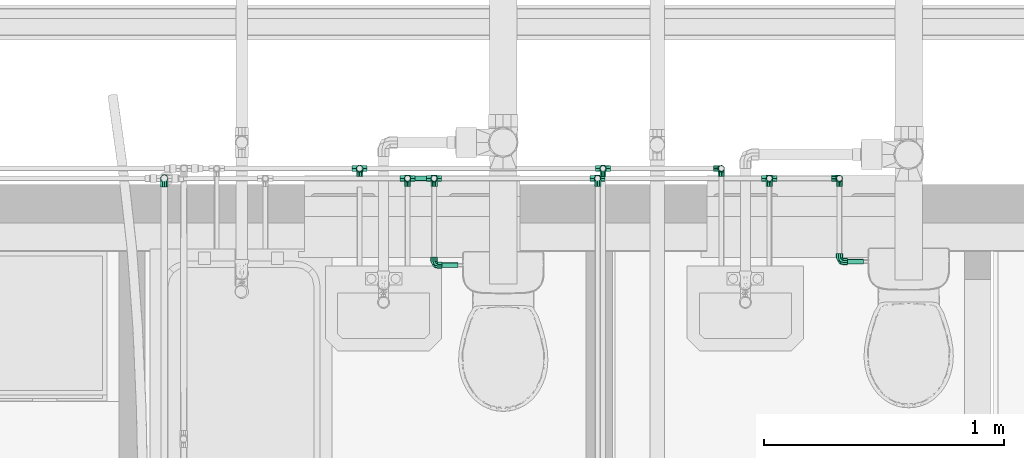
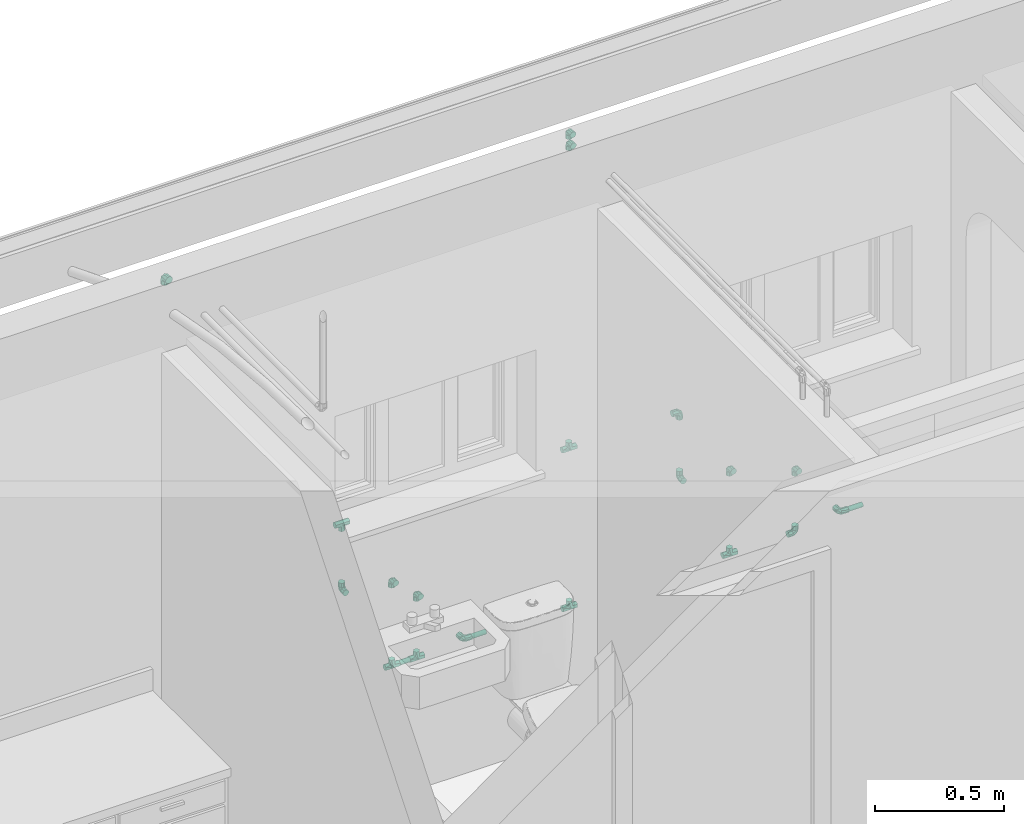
# One storey, part 30 of 41: 19 flow fittings, 3 flow segments.
"""IFC2X3 building model written with IfcOpenShell, lengths in millimetres."""

from ifc_helpers import new_model, entity, si_unit, converted_unit, derived_unit, direction, frame, origin, origin_2d_with_axis, place, context, subcontext, project, spatial, circle, extrude, faceted_brep, source, transform, mapped, type_object, type_shapes, element, save


model = new_model("IFC2X3")

# Units and contexts
model_context = context("Model", 3, precision=0.01, world=origin(), true_north=direction((6.12303176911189e-17, 1.0)))
body_context = subcontext(model_context, "Body", "Model", "MODEL_VIEW")
ifc_project = project(units=[si_unit("LENGTHUNIT", "METRE", prefix="MILLI"), si_unit("AREAUNIT", "SQUARE_METRE"), si_unit("VOLUMEUNIT", "CUBIC_METRE"), converted_unit("PLANEANGLEUNIT", "DEGREE", entity("IfcRatioMeasure", 0.0174532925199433), si_unit("PLANEANGLEUNIT", "RADIAN"), dimensions=[0, 0, 0, 0, 0, 0, 0]), si_unit("MASSUNIT", "GRAM", prefix="KILO"), derived_unit("MASSDENSITYUNIT", [(si_unit("MASSUNIT", "GRAM", prefix="KILO"), 1), (si_unit("LENGTHUNIT", "METRE"), -3)]), si_unit("TIMEUNIT", "SECOND"), si_unit("FREQUENCYUNIT", "HERTZ"), si_unit("THERMODYNAMICTEMPERATUREUNIT", "DEGREE_CELSIUS"), derived_unit("THERMALTRANSMITTANCEUNIT", [(si_unit("MASSUNIT", "GRAM", prefix="KILO"), 1), (si_unit("THERMODYNAMICTEMPERATUREUNIT", "KELVIN"), -1), (si_unit("TIMEUNIT", "SECOND"), -3)]), derived_unit("VOLUMETRICFLOWRATEUNIT", [(si_unit("LENGTHUNIT", "METRE"), 3), (si_unit("TIMEUNIT", "SECOND"), -1)]), si_unit("ELECTRICCURRENTUNIT", "AMPERE"), si_unit("ELECTRICVOLTAGEUNIT", "VOLT"), si_unit("POWERUNIT", "WATT"), si_unit("FORCEUNIT", "NEWTON", prefix="KILO"), si_unit("ILLUMINANCEUNIT", "LUX"), si_unit("LUMINOUSFLUXUNIT", "LUMEN"), si_unit("LUMINOUSINTENSITYUNIT", "CANDELA"), derived_unit("USERDEFINED", [(si_unit("MASSUNIT", "GRAM", prefix="KILO"), -1), (si_unit("LENGTHUNIT", "METRE"), -2), (si_unit("TIMEUNIT", "SECOND"), 3), (si_unit("LUMINOUSFLUXUNIT", "LUMEN"), 1)]), derived_unit("LINEARVELOCITYUNIT", [(si_unit("LENGTHUNIT", "METRE"), 1), (si_unit("TIMEUNIT", "SECOND"), -1)]), si_unit("PRESSUREUNIT", "PASCAL"), derived_unit("USERDEFINED", [(si_unit("LENGTHUNIT", "METRE"), -2), (si_unit("MASSUNIT", "GRAM", prefix="KILO"), 1), (si_unit("TIMEUNIT", "SECOND"), -2)])], contexts=[model_context])

# Site, building, storey
site_placement = place(None, origin())
site = spatial("IfcSite", under=ifc_project, at=site_placement, Name="Surface", CompositionType="ELEMENT")
building_placement = place(site_placement, origin())
building = spatial("IfcBuilding", under=site, at=building_placement, CompositionType="ELEMENT")
storey_placement = place(building_placement, frame((0.0, 0.0, 300.0)))
storey = spatial("IfcBuildingStorey", under=building, at=storey_placement, Name="F.F.L", CompositionType="ELEMENT", Elevation=300.0)

# Flow segments
pipe_segment_type = type_object("IfcPipeSegmentType", Name="Pipe Types:PVC80", PredefinedType="NOTDEFINED")
flow_segment_1_placement = place(storey_placement, origin())
element("IfcFlowSegment", 1, at=flow_segment_1_placement, inside=storey, type_object=pipe_segment_type, Name="Pipe Types:PVC80", ObjectType="Pipe Types:PVC80", context=body_context, shape_type="SweptSolid", body=[
    extrude(circle(Radius=10.668, at=origin_2d_with_axis()), frame((-1545.29684711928, 10503.8400891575, 688.0), z_axis=(1.0, 0.0, 0.0), x_axis=(0.0, -1.0, 0.0)), (0.0, 0.0, 1.0), 66.2624500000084),
])
flow_segment_2_placement = place(storey_placement, origin())
element("IfcFlowSegment", 2, at=flow_segment_2_placement, inside=storey, type_object=pipe_segment_type, Name="Pipe Types:PVC80", ObjectType="Pipe Types:PVC80", context=body_context, shape_type="SweptSolid", body=[
    extrude(circle(Radius=10.668, at=origin_2d_with_axis()), frame((-3350.1251700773, 10850.8400891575, 383.200000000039), z_axis=(1.0, 0.0, 0.0), x_axis=(0.0, 1.0, 0.0)), (0.0, 0.0, 1.0), 47.1591162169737),
])
flow_segment_3_placement = place(storey_placement, origin())
element("IfcFlowSegment", 3, at=flow_segment_3_placement, inside=storey, type_object=pipe_segment_type, Name="Pipe Types:PVC80", ObjectType="Pipe Types:PVC80", context=body_context, shape_type="SweptSolid", body=[
    extrude(circle(Radius=10.668, at=origin_2d_with_axis()), frame((-3237.47850386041, 10488.8400891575, 688.0), z_axis=(1.0, 0.0, 0.0), x_axis=(0.0, -1.0, 0.0)), (0.0, 0.0, 1.0), 65.7918893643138),
])

# Space
space_1_placement = place(storey_placement, origin())
space_1 = spatial("IfcSpace", under=storey, at=space_1_placement, Name="4", CompositionType="ELEMENT", InteriorOrExteriorSpace="INTERNAL")

# Flow fittings
pipe_fitting_type_1 = type_object("IfcPipeFittingType", Name="Standard", PredefinedType="NOTDEFINED")
shared_shape_1 = source(origin(), body_context, "Body", "Brep", [
    faceted_brep([(-33.7375499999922, 3.59598004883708, -13.4203802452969), (-33.7375499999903, -3.59598004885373, -13.420380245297), (-33.7375499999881, -12.0323837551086, -6.94690000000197), (-33.7375499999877, -13.8938000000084, 0.0), (-33.7375499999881, -12.0323837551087, 6.94689999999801), (-33.7375499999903, -3.59598004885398, 13.4203802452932), (-33.7375499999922, 3.59598004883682, 13.4203802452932), (-33.7375499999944, 12.0323837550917, 6.94689999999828), (-33.7375499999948, 13.8937999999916, 0.0), (-33.7375499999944, 12.0323837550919, -6.94690000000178), (-14.6875499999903, -13.8938000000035, 0.0), (-14.6875499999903, -12.0323837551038, 6.94689999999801), (-14.6875499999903, -3.59598004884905, 13.4203802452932), (-14.6875499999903, 3.59598004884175, 13.4203802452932), (3.59598004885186, 33.7375499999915, 13.4203802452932), (-3.59598004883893, 33.7375499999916, 13.4203802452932), (-3.59598004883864, 14.6875499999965, 13.4203802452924), (3.59598004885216, 14.6875499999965, 13.420380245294), (-14.6875499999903, 12.0323837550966, 6.94689999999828), (-14.6875499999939, 13.8937999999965, 0.0), (-14.6875499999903, 12.0323837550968, -6.94690000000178), (-14.6875499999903, 3.595980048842, -13.4203802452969), (-14.6875499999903, -3.59598004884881, -13.420380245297), (-3.59598004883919, 33.7375499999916, -13.4203802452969), (3.59598004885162, 33.7375499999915, -13.420380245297), (3.59598004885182, 14.6875499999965, -13.4203802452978), (-3.59598004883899, 14.6875499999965, -13.420380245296), (-14.6875499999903, -12.0323837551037, -6.94690000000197), (-0.73570850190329, 0.735706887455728, 12.9461366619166), (-5.12124733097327, -8.86554492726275, 8.82133054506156), (-3.19746952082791, -7.25999894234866, 0.0), (8.85075041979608, 5.0327975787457, 8.79727043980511), (12.0323837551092, 14.6875499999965, 6.94689999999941), (10.0646251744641, 0.396874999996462, 0.0), (-14.1262839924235, 14.1262839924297, 0.0), (-12.0323837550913, 14.6875499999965, 6.94689999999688), (-8.39237862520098, 8.39237845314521, 12.6322359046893), (13.8938000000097, 14.6875499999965, 0.0), (-13.8937999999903, 14.6875499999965, 0.0), (12.032383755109, 14.6875499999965, -6.94690000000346), (8.85074986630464, 5.03279761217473, -8.79727108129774), (-5.12124714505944, -8.86554487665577, -8.82133051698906), (-0.735707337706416, 0.735706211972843, -12.9461361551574), (-12.0323837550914, 14.6875499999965, -6.9469000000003), (-8.39237835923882, 8.3923781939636, -12.6322360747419), (-12.032383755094, 33.7375499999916, -6.94690000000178), (-13.8937999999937, 33.7375499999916, 0.0), (-12.0323837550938, 33.7375499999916, 6.94689999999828), (12.0323837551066, 33.7375499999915, 6.94689999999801), (13.8938000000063, 33.7375499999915, 0.0), (12.0323837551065, 33.7375499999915, -6.94690000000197)], [[[0, 1, 2, 3, 4, 5, 6, 7, 8, 9]], [[3, 10, 11, 4]], [[4, 11, 12, 5]], [[12, 13, 6, 5]], [[14, 15, 16, 17]], [[6, 13, 18, 7]], [[7, 18, 19, 8]], [[8, 19, 20, 9]], [[9, 20, 21, 0]], [[21, 22, 1, 0]], [[23, 24, 25, 26]], [[1, 22, 27, 2]], [[2, 27, 10, 3]], [[12, 28, 13]], [[29, 11, 30]], [[31, 28, 29]], [[28, 12, 29]], [[32, 31, 33]], [[34, 18, 35]], [[18, 36, 35]], [[34, 19, 18]], [[18, 13, 36]], [[11, 10, 30]], [[29, 33, 31]], [[33, 37, 32]], [[29, 30, 33]], [[32, 17, 31]], [[28, 36, 13]], [[34, 35, 38]], [[29, 12, 11]], [[35, 36, 16]], [[28, 16, 36]], [[17, 28, 31]], [[16, 28, 17]], [[20, 19, 34]], [[39, 40, 25]], [[40, 41, 42]], [[20, 43, 44]], [[41, 30, 27]], [[42, 21, 44]], [[41, 33, 30]], [[42, 44, 26]], [[27, 30, 10]], [[20, 34, 43]], [[43, 26, 44]], [[42, 25, 40]], [[41, 27, 22]], [[25, 42, 26]], [[40, 39, 33]], [[22, 21, 42]], [[39, 37, 33]], [[22, 42, 41]], [[33, 41, 40]], [[20, 44, 21]], [[43, 34, 38]], [[23, 45, 46, 47, 15, 14, 48, 49, 50, 24]], [[37, 49, 48, 32]], [[32, 48, 14, 17]], [[16, 15, 47, 35]], [[35, 47, 46, 38]], [[38, 46, 45, 43]], [[43, 45, 23, 26]], [[25, 24, 50, 39]], [[39, 50, 49, 37]]]),
])
type_shapes(pipe_fitting_type_1, [shared_shape_1])
flow_fitting_1_placement = place(space_1_placement, frame((-1579.03439711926, 10503.8400891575, 688.0), z_axis=(0.0, 0.0, 1.0), x_axis=(0.0, -1.0, 0.0)))
element("IfcFlowFitting", 4, at=flow_fitting_1_placement, inside=space_1, type_object=pipe_fitting_type_1, Name="M_Elbow - PVC - Sch 40:Standard", ObjectType="Standard", context=body_context, shape_type="MappedRepresentation", body=[
    mapped(shared_shape_1, transform((0.0, 0.0, 0.0), scale=1.0)),
])
for number, where, z_axis, x_axis, name in (
    (5, (-1579.03439711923, 10850.8400891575, 688.0), (-1.0, 0.0, 0.0), (0.0, 1.0, 0.0), "M_Elbow - PVC - Sch 40:Standard"),
    (6, (-1579.03439711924, 10850.8400891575, 383.200000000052), (0.0, 1.0, 0.0), (0.0, 0.0, -1.0), "M_Elbow - PVC - Sch 40:Standard"),
    (7, (-3271.21605386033, 10850.8400891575, 688.0), (-1.0, 0.0, 0.0), (0.0, 1.0, 0.0), "M_Elbow - PVC - Sch 40:Standard"),
    (8, (-1871.87517007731, 10850.8400891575, 790.399999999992), (-1.0, 0.0, 0.0), (0.0, 1.0, 0.0), "M_Elbow - PVC - Sch 40:Standard"),
    (9, (-3381.87517007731, 10850.8400891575, 790.399999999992), (-1.0, 0.0, 0.0), (0.0, 1.0, 0.0), "M_Elbow - PVC - Sch 40:Standard"),
    (10, (-2588.5127099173, 10850.8400891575, 2580.0), (1.0, 0.0, 0.0), (0.0, 0.0, 1.0), "M_Elbow - PVC - Sch 40:Standard"),
    (11, (-2566.0127099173, 10892.2567375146, 2600.0), (1.0, 0.0, 0.0), (0.0, 0.0, 1.0), "M_Elbow - PVC - Sch 40:Standard"),
    (12, (-2071.87517007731, 10892.2567375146, 1100.0), (0.0, 1.0, 0.0), (1.0, 0.0, 0.0), "M_Elbow - PVC - Sch 40:Standard"),
    (13, (-2071.8751700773, 10892.2567375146, 790.399999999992), (-1.0, 0.0, 0.0), (0.0, 0.0, -1.0), "M_Elbow - PVC - Sch 40:Standard"),
    (14, (-3581.87517007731, 10892.2567375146, 790.399999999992), (-1.0, 0.0, 0.0), (0.0, 0.0, -1.0), "M_Elbow - PVC - Sch 40:Standard"),
):
    element("IfcFlowFitting", number, at=place(storey_placement, frame(where, z_axis=z_axis, x_axis=x_axis)), inside=storey, type_object=pipe_fitting_type_1, Name=name, ObjectType="Standard", context=body_context, shape_type="MappedRepresentation", body=[
        mapped(shared_shape_1, transform((0.0, 0.0, 0.0), scale=1.0)),
    ])

# Space
space_2_placement = place(storey_placement, origin())
space_2 = spatial("IfcSpace", under=storey, at=space_2_placement, Name="3", CompositionType="ELEMENT", InteriorOrExteriorSpace="INTERNAL")

# Flow fittings
flow_fitting_2_placement = place(space_2_placement, frame((-3271.21605386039, 10488.8400891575, 688.0), z_axis=(0.0, 0.0, 1.0), x_axis=(0.0, -1.0, 0.0)))
element("IfcFlowFitting", 15, at=flow_fitting_2_placement, inside=space_2, type_object=pipe_fitting_type_1, Name="M_Elbow - PVC - Sch 40:Standard", ObjectType="Standard", context=body_context, shape_type="MappedRepresentation", body=[
    mapped(shared_shape_1, transform((0.0, 0.0, 0.0), scale=1.0)),
])
pipe_fitting_type_2 = type_object("IfcPipeFittingType", Name="Standard", PredefinedType="NOTDEFINED")
shared_shape_2 = source(origin(), body_context, "Body", "Brep", [
    faceted_brep([(-31.7499999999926, -6.94690000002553, 12.0323837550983), (-31.7499999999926, 0.0, 12.0323837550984), (-31.7499999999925, 6.94689999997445, 12.0323837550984), (-31.7499999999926, 10.4203499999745, 6.01619187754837), (-31.7499999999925, 13.8937999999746, 0.0), (-31.7499999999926, 10.4203499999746, -6.01619187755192), (-31.7499999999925, 6.94689999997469, -12.0323837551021), (-31.7499999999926, 0.0, -12.0323837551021), (-31.7499999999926, -6.94690000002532, -12.0323837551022), (-31.7499999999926, -10.4203500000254, -6.01619187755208), (-31.7499999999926, -13.8938000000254, 0.0), (-31.7499999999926, -12.1942000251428, 2.94379350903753), (-31.7499999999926, -10.4203500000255, 6.0161918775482), (31.7500000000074, -6.94690000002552, -12.0323837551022), (31.7500000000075, 0.0, -12.0323837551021), (31.7500000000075, 6.94689999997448, -12.0323837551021), (31.7500000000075, 10.4945999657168, -5.88758716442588), (31.7500000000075, 13.8937999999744, 0.0), (31.7500000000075, 10.4203499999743, 6.01619187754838), (31.7500000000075, 6.94689999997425, 12.0323837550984), (31.7500000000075, 0.0, 12.0323837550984), (31.7500000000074, -6.94690000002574, 12.0323837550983), (31.7500000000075, -10.4203500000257, 6.01619187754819), (31.7500000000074, -13.8938000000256, 0.0), (31.7500000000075, -12.1941999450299, -2.94379364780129), (31.7500000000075, -10.4203500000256, -6.01619187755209), (11.9878956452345, -11.9878956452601, 4.77993540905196), (10.081991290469, -10.0819912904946, 9.55987081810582), (0.0, 0.0, 13.8937999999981), (-13.8938, -13.8938000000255, 0.0), (-10.8405074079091, -10.8405074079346, 5.75319397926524), (-10.7027027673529, -10.7027027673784, 6.01285361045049), (-7.78721481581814, -7.78721481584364, 11.5063879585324), (13.8938, -13.8938000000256, 0.0), (-11.9878956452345, -11.98789564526, -4.77993540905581), (0.0, 0.0, -13.8938000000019), (-10.0819912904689, -10.0819912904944, -9.55987081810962), (10.840507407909, -10.8405074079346, -5.75319397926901), (10.7027027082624, -10.7027027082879, -6.01285372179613), (7.78721481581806, -7.78721481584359, -11.5063879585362), (6.94690000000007, -31.7500000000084, -12.0323837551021), (10.4946000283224, -31.7500000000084, -5.88758705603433), (13.8938000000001, -31.7500000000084, 0.0), (10.42035, -31.7500000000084, 6.01619187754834), (6.94689999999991, -31.7500000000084, 12.0323837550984), (0.0, -31.7500000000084, 12.0323837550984), (-6.94690000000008, -31.7500000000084, 12.0323837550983), (-10.4946000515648, -31.7500000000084, 5.88758701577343), (-13.8938, -31.7500000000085, 0.0), (-10.4203499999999, -31.7500000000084, -6.01619187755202), (-6.94689999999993, -31.7500000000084, -12.0323837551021), (0.0, -31.7500000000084, -12.0323837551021)], [[[0, 1, 2, 3, 4, 5, 6, 7, 8, 9, 10, 11, 12]], [[13, 14, 15, 16, 17, 18, 19, 20, 21, 22, 23, 24, 25]], [[26, 23, 22]], [[27, 22, 21]], [[28, 21, 20, 19]], [[11, 29, 30, 31]], [[12, 32, 0]], [[23, 26, 33]], [[10, 29, 11]], [[22, 27, 26]], [[21, 28, 27]], [[32, 12, 31]], [[4, 3, 2, 19, 18, 17]], [[32, 1, 0]], [[32, 28, 1]], [[31, 12, 11]], [[2, 28, 19]], [[28, 2, 1]], [[6, 5, 4, 17, 16, 15]], [[10, 34, 29]], [[6, 15, 35]], [[6, 35, 8, 7]], [[9, 36, 34]], [[24, 33, 37, 38]], [[14, 13, 39]], [[33, 24, 23]], [[39, 25, 38]], [[39, 13, 25]], [[36, 8, 35]], [[38, 25, 24]], [[9, 34, 10]], [[35, 15, 14]], [[36, 9, 8]], [[39, 35, 14]], [[40, 41, 42, 43, 44, 45, 46, 47, 48, 49, 50, 51]], [[46, 32, 31, 30]], [[29, 48, 47]], [[47, 30, 29]], [[32, 46, 45]], [[27, 44, 43]], [[33, 43, 42]], [[46, 30, 47]], [[32, 45, 28]], [[43, 33, 26, 27]], [[28, 45, 44]], [[28, 44, 27]], [[40, 39, 38, 37]], [[33, 42, 41]], [[41, 37, 33]], [[39, 40, 51]], [[36, 50, 49]], [[29, 49, 48]], [[40, 37, 41]], [[39, 51, 35]], [[49, 29, 34, 36]], [[35, 51, 50]], [[35, 50, 36]]]),
])
type_shapes(pipe_fitting_type_2, [shared_shape_2])
for number, where, z_axis, x_axis, name in (
    (16, (-3271.21605386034, 10850.8400891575, 383.200000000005), (0.0, 1.0, 0.0), (1.0, 0.0, 0.0), "M_Tee - PVC - Sch 40:Standard"),
    (17, (-1871.87517007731, 10850.8400891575, 383.200000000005), (0.0, 1.0, 0.0), (1.0, 0.0, 0.0), "M_Tee - PVC - Sch 40:Standard"),
    (18, (-3381.87517007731, 10850.8400891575, 383.200000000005), (0.0, 1.0, 0.0), (1.0, 0.0, 0.0), "M_Tee - PVC - Sch 40:Standard"),
    (19, (-2588.51270991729, 10850.8400891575, 383.200000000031), (0.0, -1.0, 0.0), (-1.0, 0.0, 0.0), "M_Tee - PVC - Sch 40:Standard"),
    (20, (-2566.01270991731, 10892.2567375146, 1100.0), (0.0, 1.0, 0.0), (1.0, 0.0, 0.0), "M_Tee - PVC - Sch 40:Standard"),
    (21, (-3581.8751700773, 10892.2567375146, 1100.0), (0.0, 1.0, 0.0), (-1.0, 0.0, 0.0), "M_Tee - PVC - Sch 40:Standard"),
):
    element("IfcFlowFitting", number, at=place(storey_placement, frame(where, z_axis=z_axis, x_axis=x_axis)), inside=storey, type_object=pipe_fitting_type_2, Name=name, ObjectType="Standard", context=body_context, shape_type="MappedRepresentation", body=[
        mapped(shared_shape_2, transform((0.0, 0.0, 0.0), scale=1.0)),
    ])
pipe_fitting_type_3 = type_object("IfcPipeFittingType", Name="Standard", PredefinedType="NOTDEFINED")
shared_shape_3 = source(origin(), body_context, "Body", "Brep", [
    faceted_brep([(-35.3250499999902, -4.2106493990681, -15.7143574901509), (-35.3250499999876, -14.0891074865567, -8.13435000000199), (-35.325049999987, -16.2687000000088, 0.0), (-35.3250499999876, -14.0891074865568, 8.13434999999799), (-35.3250499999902, -4.21064939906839, 15.7143574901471), (-35.3250499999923, 4.21064939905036, 15.7143574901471), (-35.3250499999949, 14.089107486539, 8.1343499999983), (-35.3250499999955, 16.2686999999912, 0.0), (-35.3250499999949, 14.0891074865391, -8.13435000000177), (-35.3250499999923, 4.21064939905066, -15.7143574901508), (-17.0624499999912, -16.2687000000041, 0.0), (-17.0624499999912, -14.0891074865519, 8.13434999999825), (-17.0624499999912, -4.21064939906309, 15.7143574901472), (-17.0624499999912, 4.21064939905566, 15.714357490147), (4.21064939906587, 35.3250499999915, 15.7143574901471), (-4.21064939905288, 35.3250499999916, 15.7143574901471), (-4.21064939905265, 17.0624499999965, 15.7143574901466), (4.2106493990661, 17.0624499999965, 15.7143574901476), (-17.0624499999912, 14.0891074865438, 8.13434999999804), (-17.0624499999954, 16.2686999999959, 0.0), (-17.0624499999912, 14.089107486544, -8.13435000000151), (-17.0624499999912, 4.21064939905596, -15.7143574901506), (-17.0624499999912, -4.21064939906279, -15.714357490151), (-4.21064939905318, 35.3250499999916, -15.7143574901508), (4.21064939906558, 35.3250499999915, -15.7143574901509), (4.21064939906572, 17.0624499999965, -15.7143574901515), (-4.21064939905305, 17.0624499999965, -15.7143574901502), (-17.0624499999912, -14.0891074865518, -8.13435000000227), (-0.790080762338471, 0.790078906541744, 15.1415400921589), (-5.95227596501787, -10.4173898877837, 10.3177265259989), (-3.60834296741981, -8.50096768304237, 0.0), (10.4004616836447, 5.84839122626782, 10.2891059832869), (14.0891074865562, 17.0624499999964, 8.13434999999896), (11.8031726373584, 0.396874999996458, 0.0), (-16.5011839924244, 16.5011839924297, 0.0), (-14.0891074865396, 17.0624499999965, 8.13434999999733), (-9.78072392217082, 9.78072371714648, 14.7956641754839), (16.2687000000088, 17.0624499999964, 0.0), (-16.2686999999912, 17.0624499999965, 0.0), (14.089107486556, 17.0624499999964, -8.13435000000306), (10.4004611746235, 5.84839127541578, -10.2891065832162), (-0.79007954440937, 0.790078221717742, -15.1415395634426), (-14.0891074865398, 17.0624499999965, -8.1343500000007), (-9.78072363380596, 9.78072344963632, -14.7956643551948), (-5.95227577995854, -10.4173898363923, -10.317726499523), (-14.0891074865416, 35.3250499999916, -8.13435000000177), (-16.2686999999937, 35.3250499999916, 0.0), (-14.0891074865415, 35.3250499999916, 8.1343499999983), (14.0891074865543, 35.3250499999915, 8.13434999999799), (16.2687000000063, 35.3250499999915, 0.0), (14.0891074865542, 35.3250499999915, -8.13435000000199)], [[[0, 1, 2, 3, 4, 5, 6, 7, 8, 9]], [[2, 10, 11, 3]], [[3, 11, 12, 4]], [[12, 13, 5, 4]], [[14, 15, 16, 17]], [[5, 13, 18, 6]], [[6, 18, 19, 7]], [[7, 19, 20, 8]], [[8, 20, 21, 9]], [[21, 22, 0, 9]], [[23, 24, 25, 26]], [[0, 22, 27, 1]], [[1, 27, 10, 2]], [[12, 28, 13]], [[29, 11, 30]], [[28, 12, 29]], [[29, 31, 28]], [[32, 31, 33]], [[34, 18, 35]], [[18, 36, 35]], [[34, 19, 18]], [[18, 13, 36]], [[11, 10, 30]], [[29, 33, 31]], [[33, 37, 32]], [[17, 28, 31]], [[32, 17, 31]], [[28, 36, 13]], [[34, 35, 38]], [[29, 12, 11]], [[35, 36, 16]], [[28, 16, 36]], [[33, 29, 30]], [[16, 28, 17]], [[20, 19, 34]], [[39, 40, 25]], [[41, 25, 40]], [[20, 42, 43]], [[44, 30, 27]], [[41, 21, 43]], [[41, 43, 26]], [[22, 41, 44]], [[27, 30, 10]], [[20, 34, 42]], [[42, 26, 43]], [[20, 43, 21]], [[44, 27, 22]], [[25, 41, 26]], [[40, 39, 33]], [[22, 21, 41]], [[39, 37, 33]], [[44, 40, 33]], [[44, 33, 30]], [[44, 41, 40]], [[42, 34, 38]], [[23, 45, 46, 47, 15, 14, 48, 49, 50, 24]], [[37, 49, 48, 32]], [[32, 48, 14, 17]], [[16, 15, 47, 35]], [[35, 47, 46, 38]], [[38, 46, 45, 42]], [[42, 45, 23, 26]], [[25, 24, 50, 39]], [[39, 50, 49, 37]]]),
])
type_shapes(pipe_fitting_type_3, [shared_shape_3])
flow_fitting_3_placement = place(storey_placement, frame((-4396.87517007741, 10850.8400891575, 2580.0), z_axis=(1.0, 0.0, 0.0), x_axis=(0.0, 0.0, 1.0)))
element("IfcFlowFitting", 22, at=flow_fitting_3_placement, inside=storey, type_object=pipe_fitting_type_3, Name="M_Elbow - PVC - Sch 40:Standard", ObjectType="Standard", context=body_context, shape_type="MappedRepresentation", body=[
    mapped(shared_shape_3, transform((0.0, 0.0, 0.0), scale=1.0)),
])

save(model, "model.ifc")
